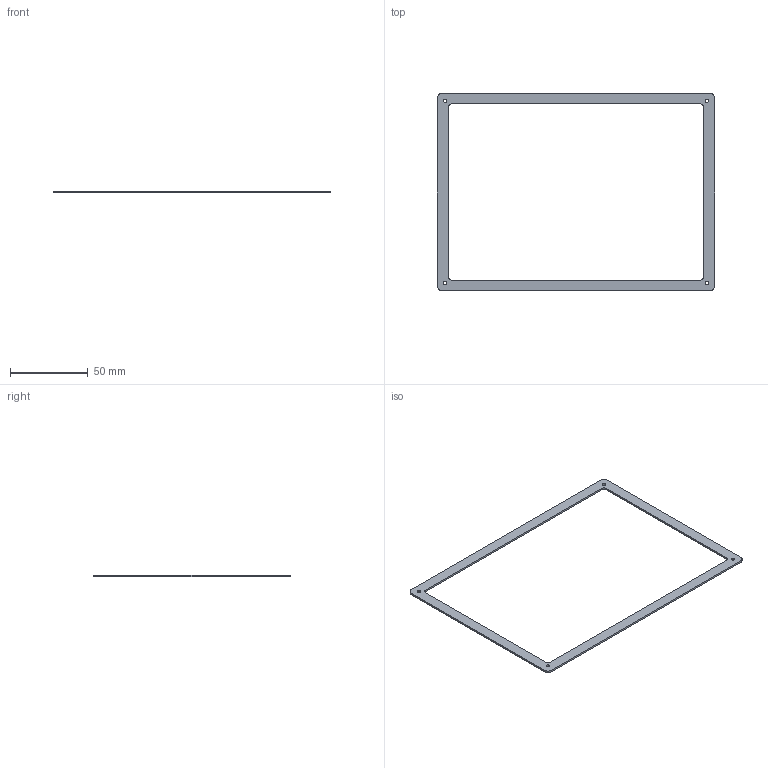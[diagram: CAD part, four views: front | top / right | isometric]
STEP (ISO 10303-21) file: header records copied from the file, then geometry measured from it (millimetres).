
FILE_DESCRIPTION(('Open CASCADE Model'),'2;1');
FILE_NAME('Open CASCADE Shape Model','2026-11-15T10:52:12',('Author'),( 'Open CASCADE'),'Open CASCADE STEP processor 7.8','Open CASCADE 7.8' ,'Unknown');
FILE_SCHEMA(('AUTOMOTIVE_DESIGN { 1 0 10303 214 1 1 1 1 }'));
Length unit declared in the file: millimetre
Products named in the file (1): Open CASCADE STEP translator 7.8 7
Bounding box: 178.2 x 127.2 x 1.2 mm (x, y, z)
Volume: 4870.4 mm3; surface area: 9540.5 mm2
Topology: 1 solids, 1 shells, 22 faces, 60 edges, 40 vertices
Faces by surface type: cylinder 12, plane 10
Full cylindrical faces by diameter (mm): 2.3 x4
Entity records: 1554 total; most frequent: CARTESIAN_POINT 315, DIRECTION 238, LINE 132, VECTOR 132, ORIENTED_EDGE 120, PCURVE 120, DEFINITIONAL_REPRESENTATION 120, EDGE_CURVE 60
